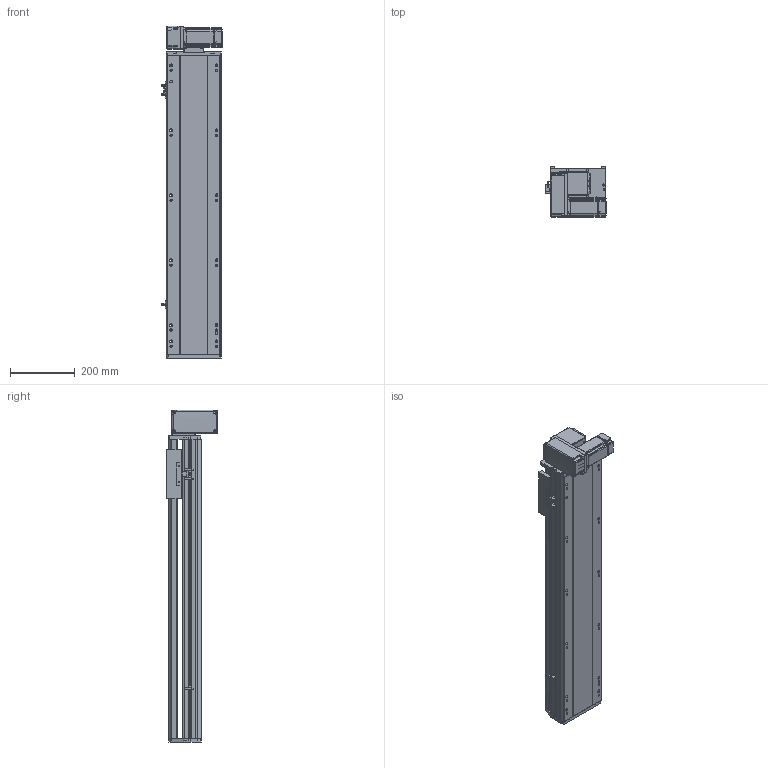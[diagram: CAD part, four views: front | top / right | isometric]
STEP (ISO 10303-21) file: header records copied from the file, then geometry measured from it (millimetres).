
FILE_DESCRIPTION (( 'STEP AP214' ), '1' );
FILE_NAME ('RTB17S-XX-650-LM-M40-C4.STEP', '2025-12-11T06:24:10', ( '' ), ( '' ), 'SwSTEP 2.0', 'SolidWorks 2018', '' );
FILE_SCHEMA (( 'AUTOMOTIVE_DESIGN' ));
Length unit declared in the file: millimetre
Products named in the file (14): RTB17S-L-004佪裝蹟譫蟀諉釱^RTB17S-XX-XX-LM-M40-C4; 400W侜督萇儂^RTB17S-XX-XX-LM-M40-C4; RTB17S-L-007奻裔^RTB17S-XX-XX-LM-M40-C4; OMRON EE-SX672 传感器^RTB17S-XX-XX-LM-M40-C4; RTB17S-L-001耜醱啣^RTB17S-XX-XX-LM-M40-C4; RMP17S-L-014-T20--々湍釱^RTB17S-LM-々湍釱蚾饜-400W_RTB17S-XX-XX-LM-M40-C4; RTB17-R-011菁釱^RTB17S-XX-XX-LM-M40-C4; RTB14-L-008-M20--萇儂啣^RTB17S-LM-々湍釱蚾饜-400W_RTB17S-XX-XX-LM-M40-C4; RTB17S-XX-650-LM-M40-C4; RTH13-BL-012覜茼え俋离^RTB17S-XX-XX-LM-M40-C4; RTB17S-LM-々湍釱蚾饜-400W^RTB17S-XX-XX-LM-M40-C4; RTB14-L-018P^RTB17S-LM-々湍釱蚾饜-400W_RTB17S-XX-XX-LM-M40-C4; RTB14-L-005P--轴承塑胶压盖^RTB17S-LM-皮带座装配-400W_RTB17S-XX-XX-LM-M40-C4; RTB14-L-017P^RTB17S-LM-々湍釱蚾饜-400W_RTB17S-XX-XX-LM-M40-C4
Assembly tree (16 placements, depth 3):
  RTB17S-XX-650-LM-M40-C4
    RTB17-R-011菁釱^RTB17S-XX-XX-LM-M40-C4
    RTB17S-L-007奻裔^RTB17S-XX-XX-LM-M40-C4
    OMRON EE-SX672 传感器^RTB17S-XX-XX-LM-M40-C4  x3
    RTH13-BL-012覜茼え俋离^RTB17S-XX-XX-LM-M40-C4
    RTB17S-L-001耜醱啣^RTB17S-XX-XX-LM-M40-C4
    400W侜督萇儂^RTB17S-XX-XX-LM-M40-C4
    RTB17S-L-004佪裝蹟譫蟀諉釱^RTB17S-XX-XX-LM-M40-C4
    RTB17S-LM-々湍釱蚾饜-400W^RTB17S-XX-XX-LM-M40-C4
      RMP17S-L-014-T20--々湍釱^RTB17S-LM-々湍釱蚾饜-400W_RTB17S-XX-XX-LM-M40-C4
      RTB14-L-005P--轴承塑胶压盖^RTB17S-LM-皮带座装配-400W_RTB17S-XX-XX-LM-M40-C4
      RTB14-L-008-M20--萇儂啣^RTB17S-LM-々湍釱蚾饜-400W_RTB17S-XX-XX-LM-M40-C4
      RTB14-L-017P^RTB17S-LM-々湍釱蚾饜-400W_RTB17S-XX-XX-LM-M40-C4  x2
      RTB14-L-018P^RTB17S-LM-々湍釱蚾饜-400W_RTB17S-XX-XX-LM-M40-C4
Bounding box: 186 x 156.5 x 1022.5 mm (x, y, z)
Volume: 9514907.8 mm3; surface area: 1188611.5 mm2
Topology: 15 solids, 15 shells, 2189 faces, 6033 edges, 3933 vertices
Faces by surface type: plane 1066, cylinder 675, bspline 301, cone 139, torus 8
Entity records: 61865 total; most frequent: CARTESIAN_POINT 17238, ORIENTED_EDGE 8910, DIRECTION 8306, EDGE_CURVE 4455, VERTEX_POINT 2921, AXIS2_PLACEMENT_3D 2851, VECTOR 2604, LINE 2604
